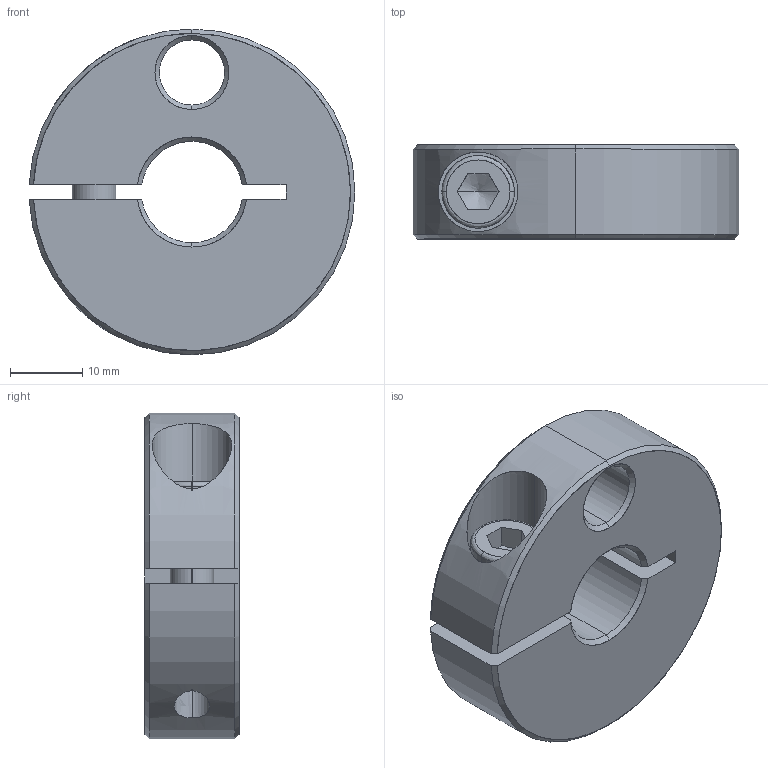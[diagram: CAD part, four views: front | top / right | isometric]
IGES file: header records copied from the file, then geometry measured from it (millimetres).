
Start section: SolidWorks IGES FILE using analytic representation for surfaces
Global section: file name: C:\WIX2\Positioning\3865\3865W014.igs; native system: SolidWorks 2003 by SolidWorks Corporation; preprocessor: Version 5.3; author: Joan; date: 030722.172916; units: millimetre
Bounding box: 44.98 x 13 x 45 mm (x, y, z)
Surface area: 7177.9 mm2 (no closed solid volume)
Topology: 0 solids, 0 shells, 63 faces, 988 edges, 986 vertices
Faces by surface type: revolution 43, bspline 20
